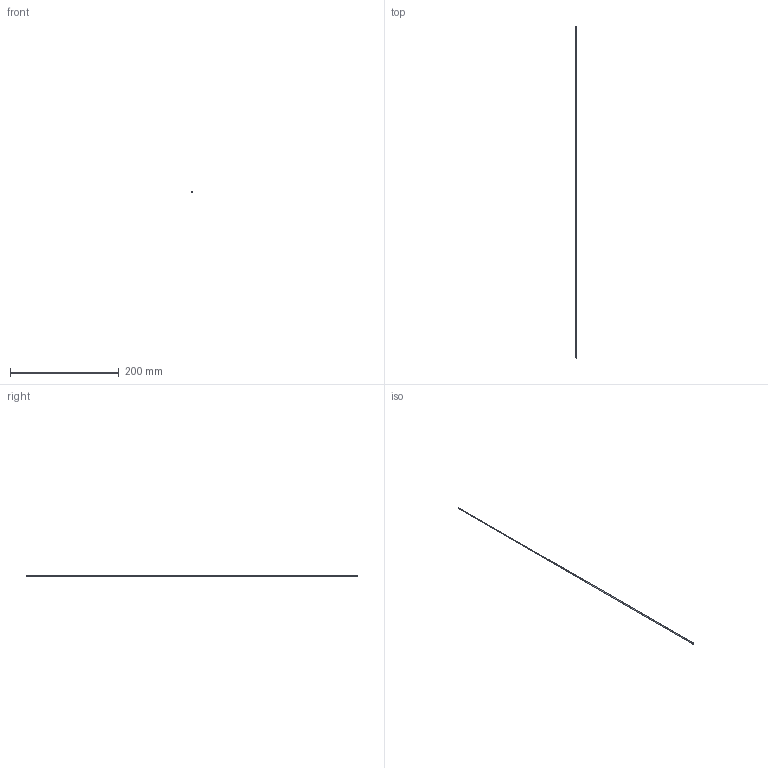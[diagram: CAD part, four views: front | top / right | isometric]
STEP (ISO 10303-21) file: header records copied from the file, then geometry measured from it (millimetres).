
FILE_DESCRIPTION(/* description */ (''),/* implementation_level */ '2;1');
FILE_NAME(/* name */ 'C:/Users/drich/Desktop/HF072T-24 v1.step',/* time_stamp */ '2019-12-30T13:31:40-06:00',/* author */ (''),/* organization */ (''),/* preprocessor_version */ 'ST-DEVELOPER v18',/* originating_system */ 'Autodesk Translation Framework v8.12.0.6',/* authorisation */ '');
FILE_SCHEMA (('AUTOMOTIVE_DESIGN { 1 0 10303 214 3 1 1 }'));
Length unit declared in the file: inch
Products named in the file (1): HF072T-24
Bounding box: 3.23 x 609.6 x 3.23 mm (x, y, z)
Volume: 506.8 mm3; surface area: 6446.5 mm2
Topology: 1 solids, 1 shells, 10 faces, 22 edges, 16 vertices
Faces by surface type: cylinder 4, plane 4, cone 1, torus 1
Full cylindrical faces by diameter (mm): 1.524 x1, 1.829 x1, 3.096 x1, 3.226 x1
Entity records: 342 total; most frequent: DIRECTION 61, CARTESIAN_POINT 51, ORIENTED_EDGE 44, AXIS2_PLACEMENT_3D 28, EDGE_CURVE 22, VERTEX_POINT 18, CIRCLE 17, EDGE_LOOP 16
